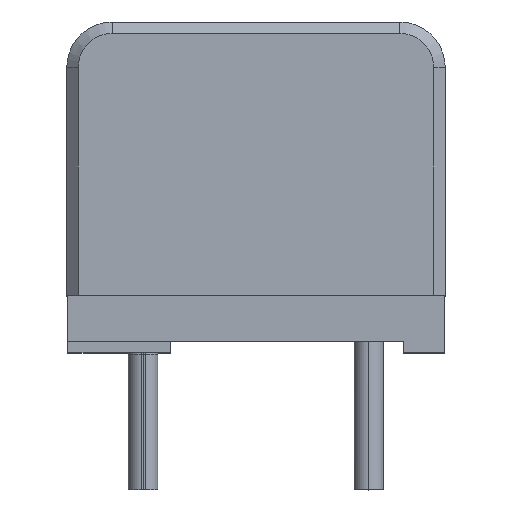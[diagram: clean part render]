
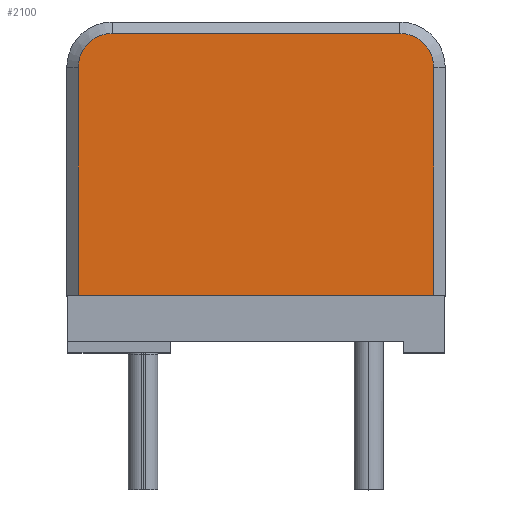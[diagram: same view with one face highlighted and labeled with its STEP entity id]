
A CAD part, top view. The second image highlights one B-rep face of the part: STEP entity #2100.
In plain terms, the highlighted planar face has unit normal (0, 0, 1) as drawn and (0, 0, -1) by its records, which use the part's own axes.
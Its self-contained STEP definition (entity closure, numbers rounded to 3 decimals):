
#263 = LINE ( 'NONE', #4870, #5902 ) ;
#532 = CARTESIAN_POINT ( 'NONE',  ( -7.8, -4.5, 0. ) ) ;
#606 = EDGE_CURVE ( 'NONE', #1324, #1605, #6489, .T. ) ;
#900 = VERTEX_POINT ( 'NONE', #4799 ) ;
#1242 = AXIS2_PLACEMENT_3D ( 'NONE', #7158, #7154, #7151 ) ;
#1254 = EDGE_CURVE ( 'NONE', #7004, #1324, #6399, .T. ) ;
#1324 = VERTEX_POINT ( 'NONE', #6517 ) ;
#1407 = EDGE_CURVE ( 'NONE', #3760, #900, #2989, .T. ) ;
#1495 = VECTOR ( 'NONE', #6283, 1000. ) ;
#1555 = DIRECTION ( 'NONE',  ( 1., 0., 0. ) ) ;
#1565 = DIRECTION ( 'NONE',  ( 0., 0., 1. ) ) ;
#1587 = PLANE ( 'NONE',  #6939 ) ;
#1605 = VERTEX_POINT ( 'NONE', #3439 ) ;
#1643 = CARTESIAN_POINT ( 'NONE',  ( 0., 0., 0. ) ) ;
#1826 = CARTESIAN_POINT ( 'NONE',  ( 6.3, 7., 0. ) ) ;
#2100 = ADVANCED_FACE ( 'NONE', ( #3142 ), #1587, .F. ) ;
#2278 = CARTESIAN_POINT ( 'NONE',  ( -6.3, 5.5, 0. ) ) ;
#2442 = ORIENTED_EDGE ( 'NONE', *, *, #7325, .F. ) ;
#2532 = LINE ( 'NONE', #3219, #1495 ) ;
#2771 = DIRECTION ( 'NONE',  ( 1., 0., 0. ) ) ;
#2989 = CIRCLE ( 'NONE', #1242, 1.5 ) ;
#3130 = VECTOR ( 'NONE', #3581, 1000. ) ;
#3142 = FACE_OUTER_BOUND ( 'NONE', #5534, .T. ) ;
#3219 = CARTESIAN_POINT ( 'NONE',  ( 7.8, 0., 0. ) ) ;
#3284 = CARTESIAN_POINT ( 'NONE',  ( 7.8, -4.5, 0. ) ) ;
#3286 = DIRECTION ( 'NONE',  ( 1., 0., 0. ) ) ;
#3336 = EDGE_CURVE ( 'NONE', #1605, #3760, #263, .T. ) ;
#3439 = CARTESIAN_POINT ( 'NONE',  ( -6.3, 7., 0. ) ) ;
#3581 = DIRECTION ( 'NONE',  ( 0., 1., 0. ) ) ;
#3760 = VERTEX_POINT ( 'NONE', #1826 ) ;
#3798 = EDGE_CURVE ( 'NONE', #900, #6038, #2532, .T. ) ;
#4095 = ORIENTED_EDGE ( 'NONE', *, *, #1254, .T. ) ;
#4111 = LINE ( 'NONE', #6188, #6670 ) ;
#4727 = ORIENTED_EDGE ( 'NONE', *, *, #606, .T. ) ;
#4799 = CARTESIAN_POINT ( 'NONE',  ( 7.8, 5.5, 0. ) ) ;
#4870 = CARTESIAN_POINT ( 'NONE',  ( 0., 7., 0. ) ) ;
#5003 = ORIENTED_EDGE ( 'NONE', *, *, #3798, .T. ) ;
#5495 = ORIENTED_EDGE ( 'NONE', *, *, #3336, .T. ) ;
#5534 = EDGE_LOOP ( 'NONE', ( #7263, #5003, #2442, #4095, #4727, #5495 ) ) ;
#5545 = DIRECTION ( 'NONE',  ( 0., 0., -1. ) ) ;
#5698 = CARTESIAN_POINT ( 'NONE',  ( -7.8, 0., 0. ) ) ;
#5844 = DIRECTION ( 'NONE',  ( 1., 0., 0. ) ) ;
#5902 = VECTOR ( 'NONE', #5844, 1000. ) ;
#5971 = AXIS2_PLACEMENT_3D ( 'NONE', #2278, #5545, #3286 ) ;
#6038 = VERTEX_POINT ( 'NONE', #3284 ) ;
#6188 = CARTESIAN_POINT ( 'NONE',  ( -8.3, -4.5, 0. ) ) ;
#6283 = DIRECTION ( 'NONE',  ( 0., -1., 0. ) ) ;
#6399 = LINE ( 'NONE', #5698, #3130 ) ;
#6489 = CIRCLE ( 'NONE', #5971, 1.5 ) ;
#6517 = CARTESIAN_POINT ( 'NONE',  ( -7.8, 5.5, 0. ) ) ;
#6670 = VECTOR ( 'NONE', #2771, 1000. ) ;
#6939 = AXIS2_PLACEMENT_3D ( 'NONE', #1643, #1565, #1555 ) ;
#7004 = VERTEX_POINT ( 'NONE', #532 ) ;
#7151 = DIRECTION ( 'NONE',  ( 1., 0., 0. ) ) ;
#7154 = DIRECTION ( 'NONE',  ( 0., 0., -1. ) ) ;
#7158 = CARTESIAN_POINT ( 'NONE',  ( 6.3, 5.5, 0. ) ) ;
#7263 = ORIENTED_EDGE ( 'NONE', *, *, #1407, .T. ) ;
#7325 = EDGE_CURVE ( 'NONE', #7004, #6038, #4111, .T. ) ;
